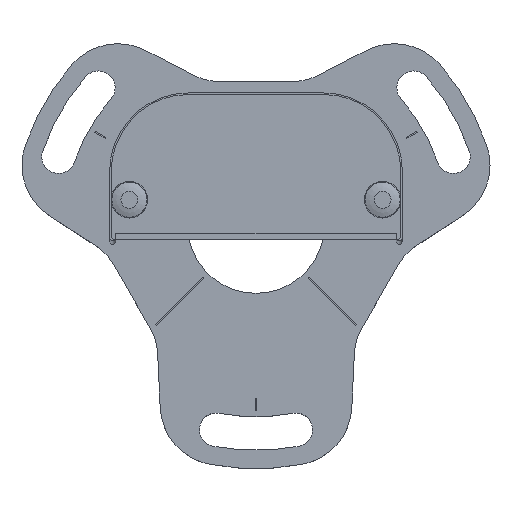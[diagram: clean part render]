
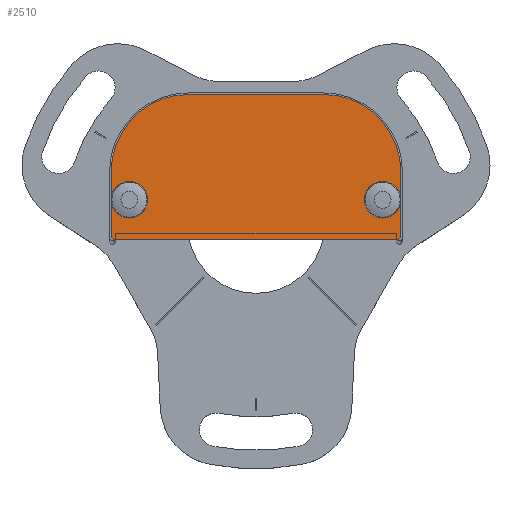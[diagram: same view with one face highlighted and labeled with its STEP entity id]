
A CAD part, top view. The second image highlights one B-rep face of the part: STEP entity #2510.
In plain terms, the highlighted planar face has unit normal (0, 0, 1).
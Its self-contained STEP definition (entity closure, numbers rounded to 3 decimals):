
#206=LINE('',#3761,#458);
#210=LINE('',#3771,#462);
#341=LINE('',#4218,#593);
#342=LINE('',#4219,#594);
#343=LINE('',#4220,#595);
#344=LINE('',#4221,#596);
#458=VECTOR('',#3015,10.);
#462=VECTOR('',#3025,10.);
#593=VECTOR('',#3456,10.);
#594=VECTOR('',#3457,10.);
#595=VECTOR('',#3458,10.);
#596=VECTOR('',#3459,10.);
#724=FACE_OUTER_BOUND('',#868,.T.);
#868=EDGE_LOOP('',(#2191,#2192,#2193,#2194,#2195,#2196,#2197,#2198,#2199,
#2200,#2201,#2202));
#908=CIRCLE('',#2597,25.3);
#909=CIRCLE('',#2600,25.3);
#910=CIRCLE('',#2602,1.);
#911=CIRCLE('',#2604,1.);
#982=CIRCLE('',#2747,6.);
#983=CIRCLE('',#2749,6.);
#1082=VERTEX_POINT('',#3756);
#1083=VERTEX_POINT('',#3759);
#1084=VERTEX_POINT('',#3763);
#1085=VERTEX_POINT('',#3765);
#1086=VERTEX_POINT('',#3769);
#1087=VERTEX_POINT('',#3773);
#1088=VERTEX_POINT('',#3777);
#1089=VERTEX_POINT('',#3781);
#1221=VERTEX_POINT('',#4214);
#1222=VERTEX_POINT('',#4217);
#1362=EDGE_CURVE('',#1082,#1083,#206,.T.);
#1364=EDGE_CURVE('',#1085,#1084,#908,.T.);
#1367=EDGE_CURVE('',#1084,#1086,#210,.T.);
#1369=EDGE_CURVE('',#1086,#1087,#909,.T.);
#1371=EDGE_CURVE('',#1088,#1083,#910,.T.);
#1372=EDGE_CURVE('',#1082,#1089,#911,.T.);
#1572=EDGE_CURVE('',#1221,#1221,#982,.T.);
#1573=EDGE_CURVE('',#1222,#1085,#341,.T.);
#1574=EDGE_CURVE('',#1087,#1221,#342,.T.);
#1575=EDGE_CURVE('',#1221,#1089,#343,.T.);
#1576=EDGE_CURVE('',#1088,#1222,#344,.T.);
#1577=EDGE_CURVE('',#1222,#1222,#983,.T.);
#2191=ORIENTED_EDGE('',*,*,#1573,.T.);
#2192=ORIENTED_EDGE('',*,*,#1364,.T.);
#2193=ORIENTED_EDGE('',*,*,#1367,.T.);
#2194=ORIENTED_EDGE('',*,*,#1369,.T.);
#2195=ORIENTED_EDGE('',*,*,#1574,.T.);
#2196=ORIENTED_EDGE('',*,*,#1572,.T.);
#2197=ORIENTED_EDGE('',*,*,#1575,.T.);
#2198=ORIENTED_EDGE('',*,*,#1372,.F.);
#2199=ORIENTED_EDGE('',*,*,#1362,.T.);
#2200=ORIENTED_EDGE('',*,*,#1371,.F.);
#2201=ORIENTED_EDGE('',*,*,#1576,.T.);
#2202=ORIENTED_EDGE('',*,*,#1577,.T.);
#2379=PLANE('',#2748);
#2510=ADVANCED_FACE('',(#724),#2379,.T.);
#2597=AXIS2_PLACEMENT_3D('',#3766,#3019,#3020);
#2600=AXIS2_PLACEMENT_3D('',#3775,#3029,#3030);
#2602=AXIS2_PLACEMENT_3D('',#3779,#3034,#3035);
#2604=AXIS2_PLACEMENT_3D('',#3782,#3038,#3039);
#2747=AXIS2_PLACEMENT_3D('',#4215,#3452,#3453);
#2748=AXIS2_PLACEMENT_3D('',#4216,#3454,#3455);
#2749=AXIS2_PLACEMENT_3D('',#4222,#3460,#3461);
#3015=DIRECTION('',(1.,0.,0.));
#3019=DIRECTION('center_axis',(0.,0.,
1.));
#3020=DIRECTION('ref_axis',(1.,0.,0.));
#3025=DIRECTION('',(-1.,0.,0.));
#3029=DIRECTION('center_axis',(0.,0.,
1.));
#3030=DIRECTION('ref_axis',(0.,1.,0.));
#3034=DIRECTION('center_axis',(0.,0.,
-1.));
#3035=DIRECTION('ref_axis',(0.707,-0.707,0.));
#3038=DIRECTION('center_axis',(0.,0.,
-1.));
#3039=DIRECTION('ref_axis',(-0.707,-0.707,0.));
#3452=DIRECTION('center_axis',(0.,0.,
-1.));
#3453=DIRECTION('ref_axis',(0.,-1.,0.));
#3454=DIRECTION('center_axis',(0.,0.,
1.));
#3455=DIRECTION('ref_axis',(-1.,0.,0.));
#3456=DIRECTION('',(0.,1.,0.));
#3457=DIRECTION('',(0.,-1.,0.));
#3458=DIRECTION('',(0.,-1.,0.));
#3459=DIRECTION('',(0.,1.,0.));
#3460=DIRECTION('center_axis',(0.,0.,
-1.));
#3461=DIRECTION('ref_axis',(0.,-1.,0.));
#3756=CARTESIAN_POINT('',(-46.5,-5.85,618.5));
#3759=CARTESIAN_POINT('',(46.5,-5.85,618.5));
#3761=CARTESIAN_POINT('',(34.851,-5.85,618.5));
#3763=CARTESIAN_POINT('',(22.2,41.65,618.5));
#3765=CARTESIAN_POINT('',(47.5,16.35,618.5));
#3766=CARTESIAN_POINT('Origin',(22.2,16.35,618.5));
#3769=CARTESIAN_POINT('',(-22.2,41.65,618.5));
#3771=CARTESIAN_POINT('',(0.001,41.65,618.5));
#3773=CARTESIAN_POINT('',(-47.5,16.35,618.5));
#3775=CARTESIAN_POINT('Origin',(-22.2,16.35,618.5));
#3777=CARTESIAN_POINT('',(47.5,-4.85,618.5));
#3779=CARTESIAN_POINT('Origin',(46.5,-4.85,618.5));
#3781=CARTESIAN_POINT('',(-47.5,-4.85,618.5));
#3782=CARTESIAN_POINT('Origin',(-46.5,-4.85,618.5));
#4214=CARTESIAN_POINT('',(-47.5,7.15,618.5));
#4215=CARTESIAN_POINT('Origin',(-41.5,7.15,618.5));
#4216=CARTESIAN_POINT('Origin',(22.202,16.087,618.5));
#4217=CARTESIAN_POINT('',(47.5,7.15,618.5));
#4218=CARTESIAN_POINT('',(47.5,16.218,618.5));
#4219=CARTESIAN_POINT('',(-47.5,5.118,618.5));
#4220=CARTESIAN_POINT('',(-47.5,5.118,618.5));
#4221=CARTESIAN_POINT('',(47.5,16.218,618.5));
#4222=CARTESIAN_POINT('Origin',(41.5,7.15,618.5));
